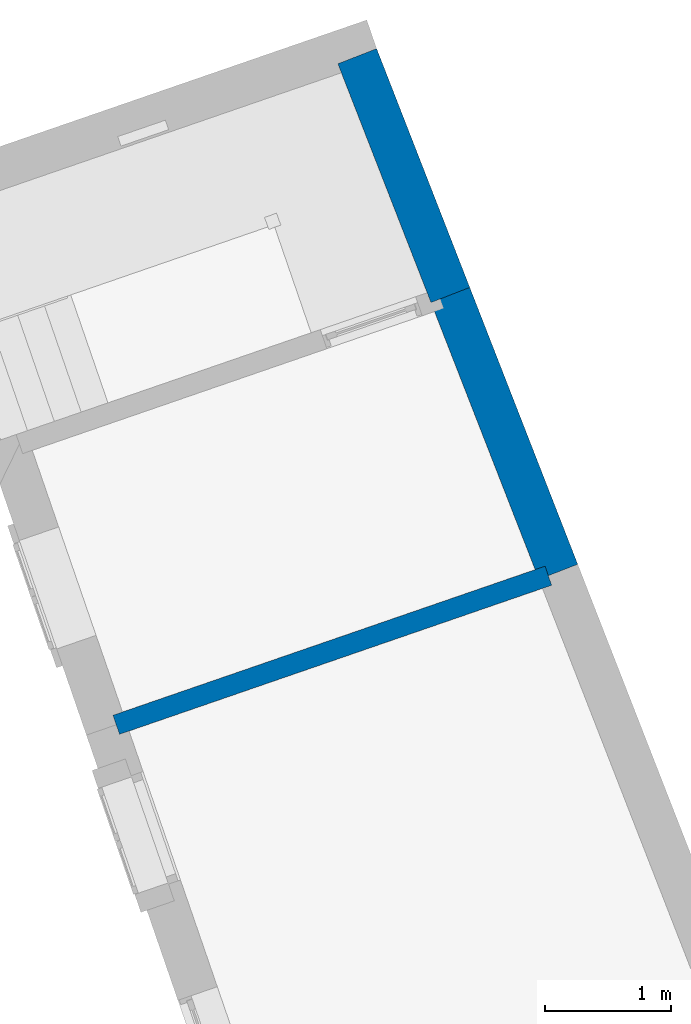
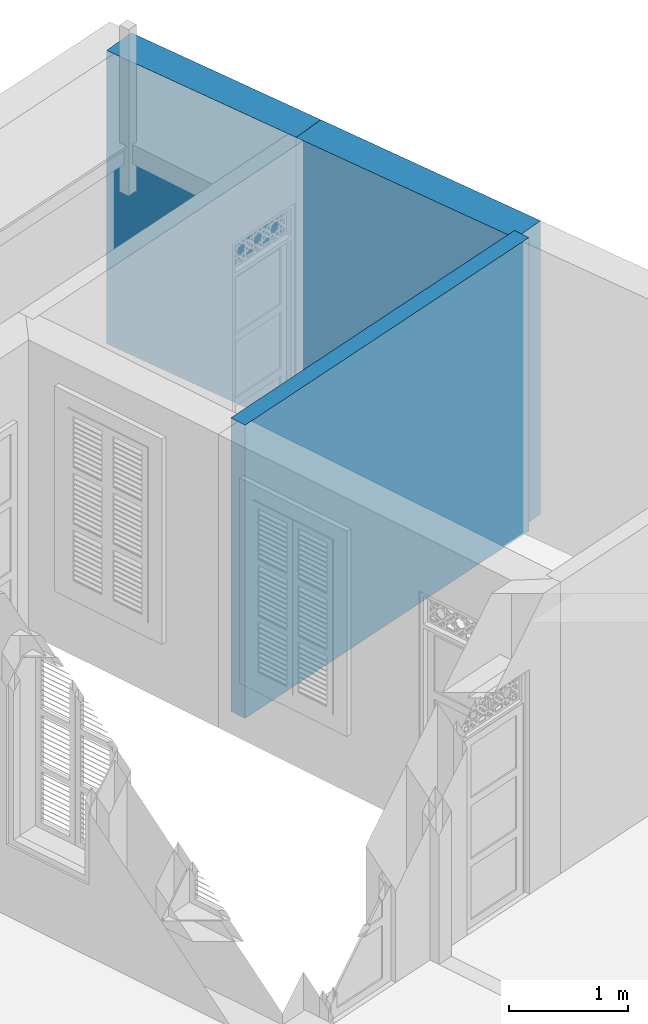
# One storey, part 16 of 16: 3 walls.
"""IFC4 building model written with IfcOpenShell, lengths in metres."""

import ifcopenshell
import ifcopenshell.guid

model = None  # the IFC model being written
_history = None  # IfcOwnerHistory: only IFC2X3 demands one
_inside = {}  # id of a spatial element -> (the spatial element, [elements in it])
_under = {}  # id of a project, library or spatial element -> (it, [spatial elements below it])
_declared = {}  # id of a project -> (the project, [libraries it declares])
_typed = {}  # id of a type object -> (the type object, [elements of that type])
_made_of = {}  # id of a material, layer set ... -> (it, [elements and type objects made of it])


def new_model(schema):
    """Start an empty IFC model of exactly this schema.

    Asked for "IFC4X3", IfcOpenShell would pick the latest addendum, in which some entities
    have other attributes; the version numbers below select the first issue.
    IFC2X3 requires an IfcOwnerHistory on every rooted entity: one is made here for all.
    """
    global model, _history
    if schema == "IFC4X3":
        model = ifcopenshell.file(schema_version=(4, 3, 0, 0))
    else:
        model = ifcopenshell.file(schema=schema)
    _inside.clear()
    _under.clear()
    _declared.clear()
    _typed.clear()
    _made_of.clear()
    _history = None
    if model.schema == "IFC2X3":
        org = make("IfcOrganization", Name="unknown")
        user = make(
            "IfcPersonAndOrganization",
            ThePerson=make("IfcPerson", FamilyName="unknown"),
            TheOrganization=org,
        )
        app = make(
            "IfcApplication",
            ApplicationDeveloper=org,
            Version="unknown",
            ApplicationFullName="unknown",
            ApplicationIdentifier="unknown",
        )
        _history = make(
            "IfcOwnerHistory",
            OwningUser=user,
            OwningApplication=app,
            ChangeAction="ADDED",
            CreationDate=0,
        )
    return model


def make(cls, **values):
    """One entity of the class cls with the attributes given. An attribute that is None is left unset."""
    return model.create_entity(
        cls, **{name: value for name, value in values.items() if value is not None}
    )


def rooted(cls, **values):
    """An entity with a GlobalId (a new one), such as an element, a storey or a relation."""
    return make(cls, GlobalId=ifcopenshell.guid.new(), OwnerHistory=_history, **values)


def si_unit(unit_type, name, prefix=None):
    """IfcSIUnit, for example si_unit("LENGTHUNIT", "METRE", prefix="MILLI")."""
    return make("IfcSIUnit", UnitType=unit_type, Prefix=prefix, Name=name)


def assignment(units):
    """IfcUnitAssignment: the units of a project."""
    return None if units is None else make("IfcUnitAssignment", Units=units)


def point(xyz):
    """IfcCartesianPoint."""
    return None if xyz is None else make("IfcCartesianPoint", Coordinates=xyz)


def direction(xyz):
    """IfcDirection."""
    return None if xyz is None else make("IfcDirection", DirectionRatios=xyz)


def frame(location, z_axis=None, x_axis=None):
    """IfcAxis2Placement3D, a coordinate frame: its origin and axes. An axis left out is left unset."""
    return make(
        "IfcAxis2Placement3D",
        Location=point(location),
        Axis=direction(z_axis),
        RefDirection=direction(x_axis),
    )


def origin_with_axes():
    """The frame at (0, 0, 0) with the z axis (0, 0, 1) and the x axis (1, 0, 0) written out."""
    return frame((0.0, 0.0, 0.0), z_axis=(0.0, 0.0, 1.0), x_axis=(1.0, 0.0, 0.0))


def place(relative_to, where):
    """IfcLocalPlacement: puts the frame where relative to a parent placement (None: the world)."""
    return make(
        "IfcLocalPlacement", PlacementRelTo=relative_to, RelativePlacement=where
    )


def context(
    kind, dimensions, precision=None, world=None, true_north=None, identifier=None
):
    """IfcGeometricRepresentationContext, for example the 3D "Model" context."""
    return make(
        "IfcGeometricRepresentationContext",
        ContextIdentifier=identifier,
        ContextType=kind,
        CoordinateSpaceDimension=dimensions,
        Precision=precision,
        WorldCoordinateSystem=world,
        TrueNorth=true_north,
    )


def subcontext(parent, identifier, kind, view, scale=None):
    """IfcGeometricRepresentationSubContext, for example "Body" below "Model"."""
    return make(
        "IfcGeometricRepresentationSubContext",
        ContextIdentifier=identifier,
        ContextType=kind,
        ParentContext=parent,
        TargetScale=scale,
        TargetView=view,
    )


def project(units=None, contexts=None):
    """IfcProject with its units and contexts."""
    return rooted(
        "IfcProject",
        Name="project",
        RepresentationContexts=contexts,
        UnitsInContext=assignment(units),
    )


def spatial(cls, under=None, at=None, **own):
    """A site, building, storey or space (cls), placed at a placement, below another one or the project."""
    s = rooted(cls, ObjectPlacement=at, **own)
    if under is not None:
        _under.setdefault(under.id(), (under, []))[1].append(s)
    return s


def polyline(points):
    """IfcPolyline through the points."""
    return make("IfcPolyline", Points=[point(p) for p in points])


def outline(outer, holes=None, kind="AREA"):
    """IfcArbitraryClosedProfileDef: a profile drawn as a closed curve; with holes, ...WithVoids."""
    if holes is None:
        return make("IfcArbitraryClosedProfileDef", ProfileType=kind, OuterCurve=outer)
    return make(
        "IfcArbitraryProfileDefWithVoids",
        ProfileType=kind,
        OuterCurve=outer,
        InnerCurves=holes,
    )


def extrude(swept, where, along, depth):
    """IfcExtrudedAreaSolid: the profile swept, set in the frame where, extruded along a direction by depth."""
    return make(
        "IfcExtrudedAreaSolid",
        SweptArea=swept,
        Position=where,
        ExtrudedDirection=direction(along),
        Depth=depth,
    )


def shape(context_of_items, identifier, shape_type, items):
    """IfcShapeRepresentation: the items that make up one representation, for example the "Body"."""
    return make(
        "IfcShapeRepresentation",
        ContextOfItems=context_of_items,
        RepresentationIdentifier=identifier,
        RepresentationType=shape_type,
        Items=items,
    )


def material(Name=None, Category=None):
    """IfcMaterial."""
    return make("IfcMaterial", Name=Name, Category=Category)


def layer(
    of_material, thickness, ventilated=None, Name=None, Category=None, Priority=None
):
    """IfcMaterialLayer: one layer of a wall or slab, of a material (None: an air gap)."""
    return make(
        "IfcMaterialLayer",
        Material=of_material,
        LayerThickness=thickness,
        IsVentilated=ventilated,
        Name=Name,
        Category=Category,
        Priority=Priority,
    )


def layer_set(layers, Name=None):
    """IfcMaterialLayerSet."""
    return make("IfcMaterialLayerSet", MaterialLayers=layers, LayerSetName=Name)


def layer_usage(for_layer_set, set_direction, sense, offset, extent=None):
    """IfcMaterialLayerSetUsage: how a layer set lies in its element."""
    return make(
        "IfcMaterialLayerSetUsage",
        ForLayerSet=for_layer_set,
        LayerSetDirection=set_direction,
        DirectionSense=sense,
        OffsetFromReferenceLine=offset,
        ReferenceExtent=extent,
    )


def made_of(thing, what):
    """Note that an element or type object is made of a material, layer set ...; save() writes the relation."""
    if what is not None:
        _made_of.setdefault(what.id(), (what, []))[1].append(thing)
    return thing


def type_object(cls, material=None, **own):
    """A type object (cls), such as IfcWallType, which elements share."""
    return made_of(rooted(cls, **own), material)


def element(
    cls,
    number,
    at=None,
    inside=None,
    cuts=None,
    type_object=None,
    material=None,
    context=None,
    identifier="Body",
    shape_type=None,
    held_by="IfcProductDefinitionShape",
    body=None,
    shapes=None,
    **own,
):
    """One element of the class cls, such as IfcWall. Its Tag is "e" and its number.

    at: its placement. inside: the storey or other place that contains it. cuts: it is an
    opening in that element (IfcRelVoidsElement). A single representation is given by context,
    identifier, shape_type and body (its items); several are given by shapes. held_by: the class
    of the entity that holds the representations. save() writes the other relations.
    """
    e = rooted(cls, Tag="e%d" % number, ObjectPlacement=at, **own)
    if body is not None:
        shapes = [shape(context, identifier, shape_type, body)]
    if shapes is not None:
        e.Representation = make(held_by, Representations=shapes)
    if inside is not None:
        _inside.setdefault(inside.id(), (inside, []))[1].append(e)
    if cuts is not None:
        rooted(
            "IfcRelVoidsElement", RelatingBuildingElement=cuts, RelatedOpeningElement=e
        )
    if type_object is not None:
        _typed.setdefault(type_object.id(), (type_object, []))[1].append(e)
    return made_of(e, material)


def aggregate(whole, parts):
    """IfcRelAggregates: a whole, such as a stair, and the parts it consists of."""
    return rooted("IfcRelAggregates", RelatingObject=whole, RelatedObjects=parts)


def save(model, path):
    """Write the relations noted so far, then the file.

    IfcRelAggregates (storeys below a building ...), IfcRelContainedInSpatialStructure (elements
    in a storey), IfcRelDefinesByType, IfcRelAssociatesMaterial and IfcRelDeclares: one each for
    every whole, place, type object, material and project.
    """
    for whole, parts in _under.values():
        aggregate(whole, parts)
    for where, things in _inside.values():
        rooted(
            "IfcRelContainedInSpatialStructure",
            RelatedElements=things,
            RelatingStructure=where,
        )
    for kind, things in _typed.values():
        rooted("IfcRelDefinesByType", RelatedObjects=things, RelatingType=kind)
    for what, things in _made_of.values():
        rooted("IfcRelAssociatesMaterial", RelatedObjects=things, RelatingMaterial=what)
    for by, libraries in _declared.values():
        rooted("IfcRelDeclares", RelatingContext=by, RelatedDefinitions=libraries)
    model.write(path)


model = new_model("IFC4")

# Units and contexts
model_context = context("Model", 3, world=origin_with_axes())
body_context = subcontext(model_context, "Body", "Model", "MODEL_VIEW")
ifc_project = project(units=[si_unit("PLANEANGLEUNIT", "RADIAN"), si_unit("MASSUNIT", "GRAM", prefix="KILO"), si_unit("FORCEUNIT", "NEWTON", prefix="KILO"), si_unit("LENGTHUNIT", "METRE"), si_unit("AREAUNIT", "SQUARE_METRE"), si_unit("VOLUMEUNIT", "CUBIC_METRE")], contexts=[model_context, model_context])

# Site, building, storey
site_placement = place(None, origin_with_axes())
site = spatial("IfcSite", under=ifc_project, at=site_placement, Name="Site plot-8", CompositionType="ELEMENT")
building_placement = place(None, origin_with_axes())
building = spatial("IfcBuilding", under=site, at=building_placement, Name="Building plot-8", CompositionType="ELEMENT")
storey_placement = place(None, origin_with_axes())
storey = spatial("IfcBuildingStorey", under=building, at=storey_placement, Name="plot-8 0", CompositionType="ELEMENT", Elevation=0.0)

# Walls
ifc_material_1 = material(Name="Masonry")
ifc_layer_1 = layer(ifc_material_1, 0.33, ventilated=False)
ifc_layer_set_1 = layer_set([ifc_layer_1], Name="party_0.08_0.25")
ifc_layer_usage_1 = layer_usage(ifc_layer_set_1, "AXIS2", "POSITIVE", -0.25)
wall_type_1 = type_object("IfcWallType", Name="party_0.08_0.25", PredefinedType="SOLIDWALL", material=ifc_layer_set_1)
wall_1_placement = place(storey_placement, frame((-4.16795280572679, 20.6373560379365, 0.0), z_axis=(0.0, 0.0, 1.0), x_axis=(-0.363339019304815, 0.931656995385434, 0.0)))
element("IfcWall", 1, at=wall_1_placement, inside=storey, type_object=wall_type_1, material=ifc_layer_usage_1, Name="party", context=body_context, shape_type="SweptSolid", body=[
    extrude(outline(polyline([(2.06547252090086e-15, 0.079999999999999), (-3.20433868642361e-15, -0.25), (2.35672966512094, -0.25), (2.35672966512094, 0.0800000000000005), (2.06547252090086e-15, 0.079999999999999)])), origin_with_axes(), (0.0, 0.0, 1.0), 3.0),
])
wall_2_placement = place(storey_placement, frame((-5.0242446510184, 22.8330197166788, 0.0), z_axis=(0.0, 0.0, 1.0), x_axis=(-0.363339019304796, 0.931656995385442, 0.0)))
element("IfcWall", 2, at=wall_2_placement, inside=storey, type_object=wall_type_1, material=ifc_layer_usage_1, Name="party", context=body_context, shape_type="SweptSolid", body=[
    extrude(outline(polyline([(-2.92609019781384e-15, 0.0800000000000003), (5.67744551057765e-15, -0.25), (2.03266617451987, -0.249999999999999), (2.03266617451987, 0.0799999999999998), (-2.92609019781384e-15, 0.0800000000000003)])), origin_with_axes(), (0.0, 0.0, 1.0), 3.0),
])
ifc_material_2 = material(Name="Masonry")
ifc_layer_2 = layer(ifc_material_2, 0.16, ventilated=False)
ifc_layer_set_2 = layer_set([ifc_layer_2], Name="interior_0.08_0.08")
ifc_layer_usage_2 = layer_usage(ifc_layer_set_2, "AXIS2", "POSITIVE", -0.08)
wall_type_2 = type_object("IfcWallType", Name="interior_0.08_0.08", PredefinedType="SOLIDWALL", material=ifc_layer_set_2)
wall_3_placement = place(storey_placement, frame((-4.16795280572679, 20.6373560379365, 0.0), z_axis=(0.0, 0.0, 1.0), x_axis=(-0.945331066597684, -0.326112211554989, 0.0)))
element("IfcWall", 3, at=wall_3_placement, inside=storey, type_object=wall_type_2, material=ifc_layer_usage_2, Name="interior", context=body_context, shape_type="SweptSolid", body=[
    extrude(outline(polyline([(-2.27858582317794e-16, 0.0799999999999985), (2.35824976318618e-16, -0.0799999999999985), (3.62507729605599, -0.0799999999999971), (3.62507729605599, 0.0799999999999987), (-2.27858582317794e-16, 0.0799999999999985)])), origin_with_axes(), (0.0, 0.0, 1.0), 3.0),
])

save(model, "model.ifc")
